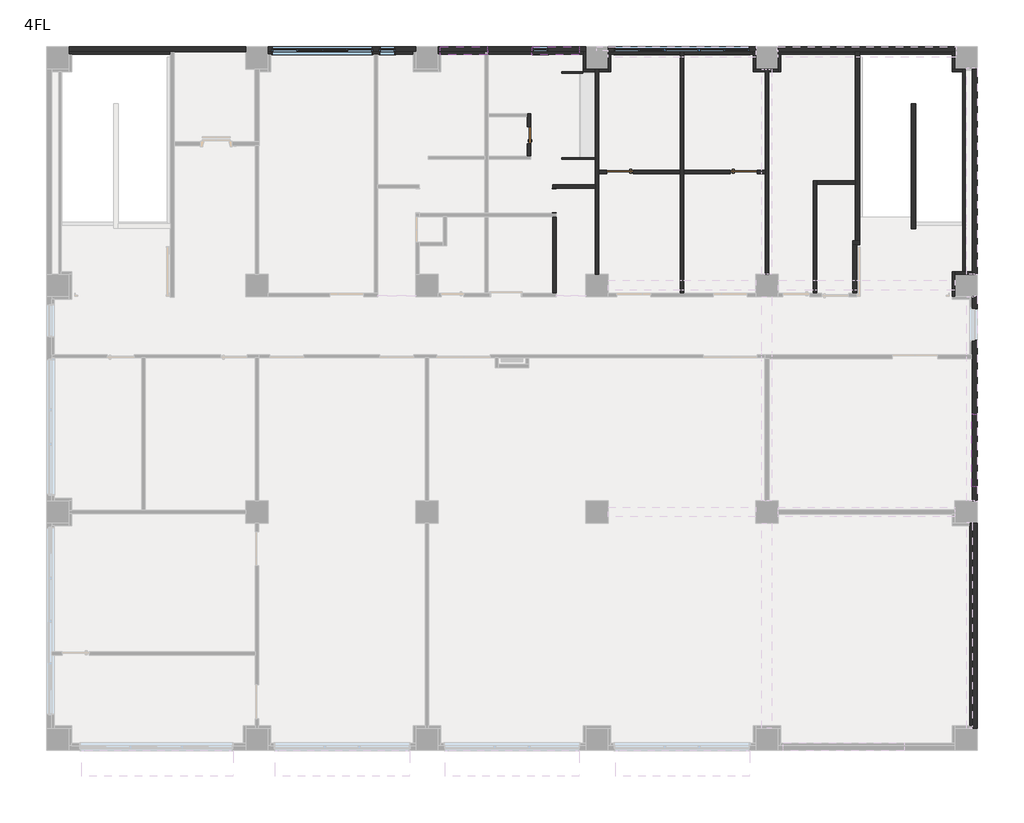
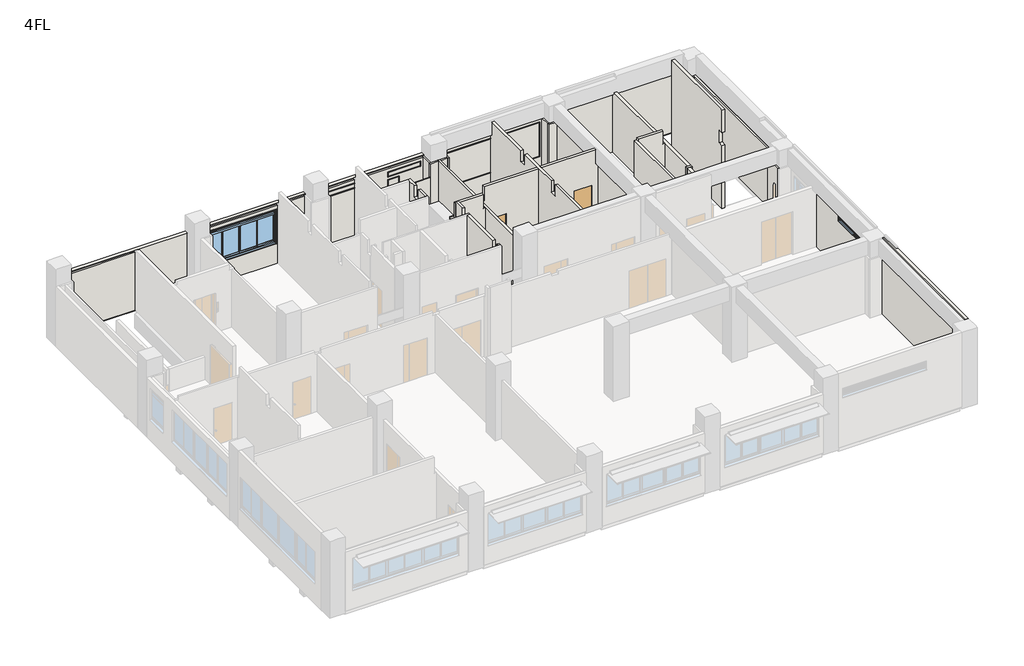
# One storey, part 3 of 5: 35 walls, 7 windows, 4 doors.
"""IFC4 building model written with IfcOpenShell, lengths in millimetres."""

from ifc_helpers import new_model, si_unit, frame, origin, place, context, project, spatial, polyline, outline, extrude, faceted_brep, transform, mapped, element, save
from components import door_14d6dc4f, door_0812e9ce, door_7e7a0efd, door_cb1f44da, ag_06_22dadb70, ag_07_7ad97628, aw4_ca96b354, aw5_d07c3508, aw7_c792b8a0, aw9_efacfa99

model = new_model("IFC4")

# Units and contexts
model_context = context("Model", 3, world=origin())
ifc_project = project(units=[si_unit("LENGTHUNIT", "METRE", prefix="MILLI")], contexts=[model_context])

# Site, building, storey
site = spatial("IfcSite", under=ifc_project)
building = spatial("IfcBuilding", under=site)
storey = spatial("IfcBuildingStorey", under=building, Name="4FL", Elevation=12300.0)

# Doors
placement = place(None, origin())
door_shape = door_14d6dc4f(model_context)
element("IfcDoor", 1, ObjectType="営_三方枠 : S1_850*2000", at=placement, inside=storey, context=model_context, shape_type="MappedRepresentation", body=[
    mapped(door_shape, transform((17500.0, 18990.25, 12300.0), x_axis=(0.0, 1.0, 0.0), y_axis=(-1.0, 0.0, 0.0), z_axis=(0.0, 0.0, 1.0))),
])
door_2_shape = door_0812e9ce(model_context)
element("IfcDoor", 2, ObjectType="営_片開き扉 : LD3 950*2000", at=placement, inside=storey, context=model_context, shape_type="MappedRepresentation", body=[
    mapped(door_2_shape, transform((19815.0, 20000.0, 12300.0), x_axis=(-1.0, 0.0, 0.0), y_axis=(0.0, -1.0, 0.0), z_axis=(0.0, 0.0, 1.0))),
])
door_3_shape = door_7e7a0efd(model_context)
element("IfcDoor", 3, ObjectType="営_片開き扉 : LD3 950*2000", at=placement, inside=storey, context=model_context, shape_type="MappedRepresentation", body=[
    mapped(door_3_shape, transform((24185.0, 20000.0, 12300.0), x_axis=(1.0, 0.0, 0.0), y_axis=(0.0, 1.0, 0.0), z_axis=(0.0, 0.0, 1.0))),
])
door_4_shape = door_cb1f44da(model_context)
element("IfcDoor", 4, ObjectType="営_片開き扉 : SD7 600*2000", at=placement, inside=storey, context=model_context, shape_type="MappedRepresentation", body=[
    mapped(door_4_shape, transform((16600.0, 21310.0, 12300.0), x_axis=(0.0, 1.0, 0.0), y_axis=(-1.0, 0.0, 0.0), z_axis=(0.0, 0.0, 1.0))),
])

# Walls
element("IfcWall", 5, ObjectType="(外壁)RC150+20", at=placement, inside=storey, context=model_context, shape_type="Brep", body=[
    faceted_brep([(7395.0, 24250.0, 12200.0), (12605.0, 24250.0, 12200.0), (12605.0, 24250.0, 15450.0), (7395.0, 24250.0, 15450.0), (7395.0, 24250.0, 15400.0), (12515.0, 24250.0, 15400.0), (12515.0, 24250.0, 12300.0), (7395.0, 24250.0, 12300.0), (12605.0, 24420.0, 12200.0), (7395.0, 24420.0, 12200.0), (7395.0, 24420.0, 15450.0), (12605.0, 24420.0, 15450.0), (11340.0, 24420.0, 13275.0), (11860.0, 24420.0, 13275.0), (11860.0, 24420.0, 15195.0), (11340.0, 24420.0, 15195.0), (7540.0, 24420.0, 13275.0), (11060.0, 24420.0, 13275.0), (11060.0, 24420.0, 15195.0), (7540.0, 24420.0, 15195.0), (11310.0, 24260.0, 13365.0), (11310.0, 24260.0, 15220.0), (11310.0, 24250.6075581, 15220.0), (11310.0, 24250.6075581, 13365.0), (11890.0, 24260.0, 15220.0), (11890.0, 24260.0, 13365.0), (11890.0, 24250.6075581, 13365.0), (11890.0, 24250.6075581, 15220.0), (11880.0, 24260.0, 13365.0), (11320.0, 24260.0, 13365.0), (11320.0, 24260.0, 15215.0), (11880.0, 24260.0, 15215.0), (11320.0, 24260.0, 13295.0), (11320.0, 24360.0, 13282.5), (11320.0, 24360.0, 15215.0), (11880.0, 24360.0, 15215.0), (11880.0, 24360.0, 13282.5), (11880.0, 24260.0, 13295.0), (11860.0, 24360.0, 13282.5), (11340.0, 24360.0, 13282.5), (11340.0, 24360.0, 15195.0), (11860.0, 24360.0, 15195.0), (11090.0, 24260.0, 15220.0), (11090.0, 24260.0, 13365.0), (11090.0, 24250.6075581, 13365.0), (11090.0, 24250.6075581, 15220.0), (7510.0, 24260.0, 13365.0), (7510.0, 24260.0, 15220.0), (7510.0, 24250.6075581, 15220.0), (7510.0, 24250.6075581, 13365.0), (11080.0, 24260.0, 13365.0), (7520.0, 24260.0, 13365.0), (7520.0, 24260.0, 15215.0), (11080.0, 24260.0, 15215.0), (11080.0, 24360.0, 15215.0), (11080.0, 24360.0, 13282.5), (11080.0, 24260.0, 13295.0), (7520.0, 24260.0, 13295.0), (7520.0, 24360.0, 13282.5), (7520.0, 24360.0, 15215.0), (11060.0, 24360.0, 13282.5), (7540.0, 24360.0, 13282.5), (7540.0, 24360.0, 15195.0), (11060.0, 24360.0, 15195.0), (7395.0, 24250.6075581, 12300.0), (7395.0, 24250.6075581, 15400.0), (12515.0, 24250.6075581, 12300.0), (12515.0, 24250.6075581, 15400.0)], [[[0, 1, 2, 3, 4, 5, 6, 7]], [[8, 9, 10, 11], [12, 13, 14, 15], [16, 17, 18, 19]], [[0, 9, 8, 1]], [[20, 21, 22, 23]], [[24, 25, 26, 27]], [[25, 28, 29, 20, 23, 26]], [[21, 20, 29, 30, 31, 28, 25, 24]], [[21, 24, 27, 22]], [[30, 29, 32, 33, 34]], [[28, 31, 35, 36, 37]], [[33, 32, 37, 36, 38, 13, 12, 39]], [[34, 33, 39, 40, 41, 38, 36, 35]], [[31, 30, 34, 35]], [[29, 28, 37, 32]], [[39, 12, 15, 40]], [[13, 38, 41, 14]], [[41, 40, 15, 14]], [[42, 43, 44, 45]], [[46, 47, 48, 49]], [[43, 50, 51, 46, 49, 44]], [[43, 42, 47, 46, 51, 52, 53, 50]], [[47, 42, 45, 48]], [[50, 53, 54, 55, 56]], [[52, 51, 57, 58, 59]], [[56, 55, 60, 17, 16, 61, 58, 57]], [[55, 54, 59, 58, 61, 62, 63, 60]], [[53, 52, 59, 54]], [[51, 50, 56, 57]], [[17, 60, 63, 18]], [[61, 16, 19, 62]], [[63, 62, 19, 18]], [[9, 0, 7, 64, 65, 4, 3, 10]], [[1, 8, 11, 2]], [[3, 2, 11, 10]], [[64, 66, 67, 65], [23, 22, 27, 26], [45, 44, 49, 48]], [[66, 64, 7, 6]], [[65, 67, 5, 4]], [[67, 66, 6, 5]]]),
    faceted_brep([(13395.0, 24250.0, 12200.0), (18605.0, 24250.0, 12200.0), (18605.0, 24250.0, 15450.0), (13395.0, 24250.0, 15450.0), (16710.0, 24250.0, 13365.0), (16710.0, 24250.0, 14820.0), (17290.0, 24250.0, 14820.0), (17290.0, 24250.0, 13365.0), (18380.0, 24250.0, 15235.0), (18380.0, 24250.0, 14965.0), (16700.0, 24250.0, 14965.0), (16700.0, 24250.0, 15235.0), (15140.0, 24250.0, 15235.0), (15140.0, 24250.0, 14965.0), (13460.0, 24250.0, 14965.0), (13460.0, 24250.0, 15235.0), (18605.0, 24420.0, 12200.0), (13395.0, 24420.0, 12200.0), (13395.0, 24420.0, 15450.0), (18605.0, 24420.0, 15450.0), (16740.0, 24420.0, 13275.0), (17260.0, 24420.0, 13275.0), (17260.0, 24420.0, 14795.0), (16740.0, 24420.0, 14795.0), (16730.0, 24420.0, 14875.0), (18350.0, 24420.0, 14875.0), (18350.0, 24420.0, 15210.0), (16730.0, 24420.0, 15210.0), (13490.0, 24420.0, 14875.0), (15110.0, 24420.0, 14875.0), (15110.0, 24420.0, 15210.0), (13490.0, 24420.0, 15210.0), (16710.0, 24260.0, 14820.0), (16710.0, 24260.0, 13365.0), (17290.0, 24260.0, 13365.0), (17290.0, 24260.0, 14820.0), (17280.0, 24260.0, 13365.0), (16720.0, 24260.0, 13365.0), (16720.0, 24260.0, 14815.0), (17280.0, 24260.0, 14815.0), (16720.0, 24260.0, 13295.0), (16720.0, 24360.0, 13282.5), (16720.0, 24360.0, 14815.0), (17280.0, 24360.0, 14815.0), (17280.0, 24360.0, 13282.5), (17280.0, 24260.0, 13295.0), (17260.0, 24360.0, 13282.5), (16740.0, 24360.0, 13282.5), (16740.0, 24360.0, 14795.0), (17260.0, 24360.0, 14795.0), (18380.0, 24290.0, 15235.0), (18380.0, 24290.0, 14965.0), (16700.0, 24290.0, 14965.0), (16700.0, 24290.0, 15235.0), (18370.0, 24290.0, 14965.0), (16710.0, 24290.0, 14965.0), (16710.0, 24290.0, 15230.0), (18370.0, 24290.0, 15230.0), (18370.0, 24360.0, 15230.0), (18370.0, 24360.0, 14884.2307692), (18370.0, 24290.0, 14895.0), (16710.0, 24290.0, 14895.0), (16710.0, 24360.0, 14884.2307692), (16710.0, 24360.0, 15230.0), (18350.0, 24360.0, 14884.2307692), (16730.0, 24360.0, 14884.2307692), (16730.0, 24360.0, 15210.0), (18350.0, 24360.0, 15210.0), (15140.0, 24290.0, 15235.0), (15140.0, 24290.0, 14965.0), (13460.0, 24290.0, 14965.0), (13460.0, 24290.0, 15235.0), (15130.0, 24290.0, 14965.0), (13470.0, 24290.0, 14965.0), (13470.0, 24290.0, 15230.0), (15130.0, 24290.0, 15230.0), (15130.0, 24360.0, 15230.0), (15130.0, 24360.0, 14884.2307692), (15130.0, 24290.0, 14895.0), (13470.0, 24290.0, 14895.0), (13470.0, 24360.0, 14884.2307692), (13470.0, 24360.0, 15230.0), (15110.0, 24360.0, 14884.2307692), (13490.0, 24360.0, 14884.2307692), (13490.0, 24360.0, 15210.0), (15110.0, 24360.0, 15210.0)], [[[0, 1, 2, 3], [4, 5, 6, 7], [8, 9, 10, 11], [12, 13, 14, 15]], [[16, 17, 18, 19], [20, 21, 22, 23], [24, 25, 26, 27], [28, 29, 30, 31]], [[0, 17, 16, 1]], [[32, 5, 4, 33]], [[34, 7, 6, 35]], [[33, 4, 7, 34, 36, 37]], [[32, 33, 37, 38, 39, 36, 34, 35]], [[5, 32, 35, 6]], [[38, 37, 40, 41, 42]], [[36, 39, 43, 44, 45]], [[41, 40, 45, 44, 46, 21, 20, 47]], [[42, 41, 47, 48, 49, 46, 44, 43]], [[39, 38, 42, 43]], [[37, 36, 45, 40]], [[47, 20, 23, 48]], [[21, 46, 49, 22]], [[49, 48, 23, 22]], [[50, 51, 9, 8]], [[52, 53, 11, 10]], [[51, 54, 55, 52, 10, 9]], [[51, 50, 53, 52, 55, 56, 57, 54]], [[53, 50, 8, 11]], [[54, 57, 58, 59, 60]], [[56, 55, 61, 62, 63]], [[60, 59, 64, 25, 24, 65, 62, 61]], [[59, 58, 63, 62, 65, 66, 67, 64]], [[57, 56, 63, 58]], [[55, 54, 60, 61]], [[25, 64, 67, 26]], [[65, 24, 27, 66]], [[67, 66, 27, 26]], [[68, 69, 13, 12]], [[70, 71, 15, 14]], [[13, 69, 72, 73, 70, 14]], [[69, 68, 71, 70, 73, 74, 75, 72]], [[68, 12, 15, 71]], [[72, 75, 76, 77, 78]], [[74, 73, 79, 80, 81]], [[78, 77, 82, 29, 28, 83, 80, 79]], [[77, 76, 81, 80, 83, 84, 85, 82]], [[75, 74, 81, 76]], [[73, 72, 78, 79]], [[29, 82, 85, 30]], [[83, 28, 31, 84]], [[85, 84, 31, 30]], [[17, 0, 3, 18]], [[1, 16, 19, 2]], [[3, 2, 19, 18]]]),
    faceted_brep([(19395.0, 24250.0, 12200.0), (24605.0, 24250.0, 12200.0), (24605.0, 24250.0, 15450.0), (19395.0, 24250.0, 15450.0), (24410.0, 24250.0, 15220.0), (24410.0, 24250.0, 13365.0), (19590.0, 24250.0, 13365.0), (19590.0, 24250.0, 15220.0), (24605.0, 24420.0, 12200.0), (19395.0, 24420.0, 12200.0), (19395.0, 24420.0, 15450.0), (24605.0, 24420.0, 15450.0), (19620.0, 24420.0, 13275.0), (24380.0, 24420.0, 13275.0), (24380.0, 24420.0, 15195.0), (19620.0, 24420.0, 15195.0), (24410.0, 24260.0, 15220.0), (24410.0, 24260.0, 13365.0), (19590.0, 24260.0, 13365.0), (19590.0, 24260.0, 15220.0), (24400.0, 24260.0, 13365.0), (19600.0, 24260.0, 13365.0), (19600.0, 24260.0, 15215.0), (24400.0, 24260.0, 15215.0), (24400.0, 24360.0, 15215.0), (24400.0, 24360.0, 13282.5), (24400.0, 24260.0, 13295.0), (19600.0, 24260.0, 13295.0), (19600.0, 24360.0, 13282.5), (19600.0, 24360.0, 15215.0), (24380.0, 24360.0, 13282.5), (19620.0, 24360.0, 13282.5), (19620.0, 24360.0, 15195.0), (24380.0, 24360.0, 15195.0)], [[[0, 1, 2, 3], [4, 5, 6, 7]], [[8, 9, 10, 11], [12, 13, 14, 15]], [[0, 9, 8, 1]], [[16, 17, 5, 4]], [[18, 19, 7, 6]], [[5, 17, 20, 21, 18, 6]], [[17, 16, 19, 18, 21, 22, 23, 20]], [[16, 4, 7, 19]], [[20, 23, 24, 25, 26]], [[22, 21, 27, 28, 29]], [[26, 25, 30, 13, 12, 31, 28, 27]], [[25, 24, 29, 28, 31, 32, 33, 30]], [[23, 22, 29, 24]], [[21, 20, 26, 27]], [[13, 30, 33, 14]], [[31, 12, 15, 32]], [[33, 32, 15, 14]], [[9, 0, 3, 10]], [[1, 8, 11, 2]], [[3, 2, 11, 10]]]),
    faceted_brep([(25395.0, 24250.0, 12200.0), (31630.0, 24250.0, 12200.0), (31630.0, 24250.0, 15450.0), (25395.0, 24250.0, 15450.0), (31630.0, 24420.0, 12200.0), (31580.0, 24420.0, 12200.0), (25420.0, 24420.0, 12200.0), (25395.0, 24420.0, 12200.0), (25395.0, 24420.0, 15450.0), (31630.0, 24420.0, 15450.0)], [[[0, 1, 2, 3]], [[4, 5, 6, 7, 8, 9]], [[0, 7, 6, 5, 4, 1]], [[7, 0, 3, 8]], [[1, 4, 9, 2]], [[3, 2, 9, 8]]]),
    faceted_brep([(370.0, 24250.0, 12200.0), (6605.0, 24250.0, 12200.0), (6605.0, 24250.0, 15450.0), (370.0, 24250.0, 15450.0), (6605.0, 24420.0, 12200.0), (370.0, 24420.0, 12200.0), (370.0, 24420.0, 15450.0), (6605.0, 24420.0, 15450.0)], [[[0, 1, 2, 3]], [[4, 5, 6, 7]], [[4, 1, 0, 5]], [[1, 4, 7, 2]], [[5, 0, 3, 6]], [[3, 2, 7, 6]]]),
])
element("IfcWall", 6, ObjectType="(外壁)RC150+20", at=placement, inside=storey, context=model_context, shape_type="Brep", body=[
    faceted_brep([(32250.0, 15605.0, 12200.0), (32250.0, 8395.0, 12200.0), (32250.0, 8395.0, 15400.0), (32250.0, 15605.0, 15400.0), (32250.0, 14027.5, 15020.0), (32250.0, 14027.5, 13365.0), (32250.0, 15207.5, 13365.0), (32250.0, 15207.5, 15020.0), (32250.0, 8890.0, 15385.0), (32250.0, 8890.0, 14865.0), (32250.0, 11470.0, 14865.0), (32250.0, 11470.0, 15385.0), (32420.0, 15605.0, 15400.0), (32420.0, 8395.0, 15400.0), (32420.0, 8395.0, 12200.0), (32420.0, 8420.0, 12200.0), (32420.0, 15580.0, 12200.0), (32420.0, 15605.0, 12200.0), (32420.0, 15177.5, 13275.0), (32420.0, 14057.5, 13275.0), (32420.0, 14057.5, 14995.0), (32420.0, 15177.5, 14995.0), (32420.0, 11440.0, 14775.0), (32420.0, 8920.0, 14775.0), (32420.0, 8920.0, 15360.0), (32420.0, 11440.0, 15360.0), (32260.0, 14027.5, 15020.0), (32260.0, 14027.5, 13365.0), (32260.0, 15207.5, 13365.0), (32260.0, 15207.5, 15020.0), (32260.0, 14037.5, 13365.0), (32260.0, 15197.5, 13365.0), (32260.0, 15197.5, 15015.0), (32260.0, 14037.5, 15015.0), (32360.0, 14037.5, 15015.0), (32360.0, 14037.5, 13282.5), (32260.0, 14037.5, 13295.0), (32260.0, 15197.5, 13295.0), (32360.0, 15197.5, 13282.5), (32360.0, 15197.5, 15015.0), (32360.0, 14057.5, 13282.5), (32360.0, 15177.5, 13282.5), (32360.0, 15177.5, 14995.0), (32360.0, 14057.5, 14995.0), (32290.0, 8890.0, 15385.0), (32290.0, 8890.0, 14865.0), (32290.0, 11470.0, 14865.0), (32290.0, 11470.0, 15385.0), (32290.0, 8900.0, 14865.0), (32290.0, 11460.0, 14865.0), (32290.0, 11460.0, 15380.0), (32290.0, 8900.0, 15380.0), (32360.0, 8900.0, 15380.0), (32360.0, 8900.0, 14784.2307692), (32290.0, 8900.0, 14795.0), (32290.0, 11460.0, 14795.0), (32360.0, 11460.0, 14784.2307692), (32360.0, 11460.0, 15380.0), (32360.0, 8920.0, 14784.2307692), (32360.0, 11440.0, 14784.2307692), (32360.0, 11440.0, 15360.0), (32360.0, 8920.0, 15360.0)], [[[0, 1, 2, 3], [4, 5, 6, 7], [8, 9, 10, 11]], [[12, 13, 14, 15, 16, 17], [18, 19, 20, 21], [22, 23, 24, 25]], [[14, 1, 0, 17, 16, 15]], [[26, 27, 5, 4]], [[28, 29, 7, 6]], [[5, 27, 30, 31, 28, 6]], [[27, 26, 29, 28, 31, 32, 33, 30]], [[26, 4, 7, 29]], [[30, 33, 34, 35, 36]], [[32, 31, 37, 38, 39]], [[36, 35, 40, 19, 18, 41, 38, 37]], [[35, 34, 39, 38, 41, 42, 43, 40]], [[33, 32, 39, 34]], [[31, 30, 36, 37]], [[19, 40, 43, 20]], [[41, 18, 21, 42]], [[43, 42, 21, 20]], [[1, 14, 13, 2]], [[17, 0, 3, 12]], [[3, 2, 13, 12]], [[44, 45, 9, 8]], [[46, 47, 11, 10]], [[9, 45, 48, 49, 46, 10]], [[45, 44, 47, 46, 49, 50, 51, 48]], [[44, 8, 11, 47]], [[48, 51, 52, 53, 54]], [[50, 49, 55, 56, 57]], [[54, 53, 58, 23, 22, 59, 56, 55]], [[53, 52, 57, 56, 59, 60, 61, 58]], [[51, 50, 57, 52]], [[49, 48, 54, 55]], [[23, 58, 61, 24]], [[59, 22, 25, 60]], [[61, 60, 25, 24]]]),
    faceted_brep([(32250.0, 23630.0, 12200.0), (32250.0, 16395.0, 12200.0), (32250.0, 16395.0, 15400.0), (32250.0, 23630.0, 15400.0), (32420.0, 16395.0, 12200.0), (32420.0, 16420.0, 12200.0), (32420.0, 23580.0, 12200.0), (32420.0, 23630.0, 12200.0), (32420.0, 23630.0, 15400.0), (32420.0, 16395.0, 15400.0)], [[[0, 1, 2, 3]], [[4, 5, 6, 7, 8, 9]], [[4, 1, 0, 7, 6, 5]], [[1, 4, 9, 2]], [[7, 0, 3, 8]], [[3, 2, 9, 8]]]),
    faceted_brep([(32250.0, 370.0, 12200.0), (32250.0, 370.0, 15400.0), (32250.0, 370.0, 16240.0), (32250.0, 370.0, 16300.0), (32250.0, 7605.0, 16300.0), (32250.0, 7605.0, 16240.0), (32250.0, 7605.0, 12200.0), (32420.0, 7605.0, 12200.0), (32420.0, 7605.0, 16300.0), (32420.0, 6580.0, 16300.0), (32420.0, 370.0, 16300.0), (32420.0, 370.0, 12200.0), (32420.0, 420.0, 12200.0), (32420.0, 7580.0, 12200.0)], [[[0, 1, 2, 3, 4, 5, 6]], [[7, 8, 9, 10, 11, 12, 13]], [[11, 0, 6, 7, 13, 12]], [[3, 10, 9, 8, 4]], [[3, 2, 1, 0, 11, 10]], [[6, 5, 4, 8, 7]]]),
])
element("IfcWall", 7, ObjectType="(内壁)W4", at=placement, inside=storey, context=model_context, shape_type="Brep", body=[
    faceted_brep([(18940.0, 23630.0, 12300.0), (18940.0, 23540.0, 12300.0), (18940.0, 19550.0, 12300.0), (18940.0, 19430.0, 12300.0), (18940.0, 16395.0, 12300.0), (18940.0, 16395.0, 15400.0), (18940.0, 19430.0, 15400.0), (18940.0, 19550.0, 15400.0), (18940.0, 23540.0, 15400.0), (18940.0, 23630.0, 15400.0), (19060.0, 16395.0, 12300.0), (19060.0, 19940.0, 12300.0), (19060.0, 20060.0, 12300.0), (19060.0, 23540.0, 12300.0), (19060.0, 23630.0, 12300.0), (19060.0, 23630.0, 15400.0), (19060.0, 23540.0, 15400.0), (19060.0, 20060.0, 15400.0), (19060.0, 19940.0, 15400.0), (19060.0, 16395.0, 15400.0)], [[[0, 1, 2, 3, 4, 5, 6, 7, 8, 9]], [[10, 11, 12, 13, 14, 15, 16, 17, 18, 19]], [[10, 4, 3, 2, 1, 0, 14, 13, 12, 11]], [[4, 10, 19, 5]], [[14, 0, 9, 15]], [[9, 8, 7, 6, 5, 19, 18, 17, 16, 15]]]),
])
element("IfcWall", 8, ObjectType="(内壁)W3", at=placement, inside=storey, context=model_context, shape_type="Brep", body=[
    faceted_brep([(26640.0, 19695.0, 12300.0), (26640.0, 15725.0, 12300.0), (26640.0, 15725.0, 16150.0), (26640.0, 15825.0, 16150.0), (26640.0, 15825.0, 15450.0), (26640.0, 16175.0, 15450.0), (26640.0, 16175.0, 16150.0), (26640.0, 19695.0, 16150.0), (26760.0, 15725.0, 12300.0), (26760.0, 19575.0, 12300.0), (26760.0, 19695.0, 12300.0), (26760.0, 19695.0, 16150.0), (26760.0, 16175.0, 16150.0), (26760.0, 16175.0, 15450.0), (26760.0, 15825.0, 15450.0), (26760.0, 15825.0, 16150.0), (26760.0, 15725.0, 16150.0)], [[[0, 1, 2, 3, 4, 5, 6, 7]], [[8, 9, 10, 11, 12, 13, 14, 15, 16]], [[1, 0, 10, 9, 8]], [[11, 7, 6, 12]], [[2, 16, 15, 3]], [[0, 7, 11, 10]], [[2, 1, 8, 16]], [[14, 4, 3, 15]], [[4, 14, 13, 5]], [[5, 13, 12, 6]]]),
])
element("IfcWall", 9, ObjectType="(内壁)W3", at=placement, inside=storey, context=model_context, shape_type="Brep", body=[
    faceted_brep([(26760.0, 19575.0, 12300.0), (28125.0, 19575.0, 12300.0), (28125.0, 19575.0, 15550.0), (28024.0, 19575.0, 15550.0), (28024.0, 19575.0, 16250.0), (26760.0, 19575.0, 16250.0), (28125.0, 19695.0, 12300.0), (26760.0, 19695.0, 12300.0), (26760.0, 19695.0, 16150.0), (26760.0, 19695.0, 16250.0), (28024.0, 19695.0, 16250.0), (28024.0, 19695.0, 15550.0), (28125.0, 19695.0, 15550.0)], [[[0, 1, 2, 3, 4, 5]], [[6, 7, 8, 9, 10, 11, 12]], [[1, 0, 7, 6]], [[9, 5, 4, 10]], [[0, 5, 9, 8, 7]], [[1, 6, 12, 2]], [[11, 3, 2, 12]], [[3, 11, 10, 4]]]),
])
element("IfcWall", 10, ObjectType="(内壁)150_RC", at=placement, inside=storey, context=model_context, shape_type="Brep", body=[
    faceted_brep([(28175.0, 15725.0, 12300.0), (28175.0, 17430.0, 12300.0), (28175.0, 17430.0, 15550.0), (28175.0, 16175.0, 15550.0), (28175.0, 16175.0, 15450.0), (28175.0, 15825.0, 15450.0), (28175.0, 15825.0, 15550.0), (28175.0, 15825.0, 16150.0), (28175.0, 15725.0, 16150.0), (28025.0, 17430.0, 12300.0), (28025.0, 15725.0, 12300.0), (28025.0, 15725.0, 16150.0), (28025.0, 15825.0, 16150.0), (28025.0, 15825.0, 15550.0), (28025.0, 15825.0, 15450.0), (28025.0, 16175.0, 15450.0), (28025.0, 16175.0, 15550.0), (28025.0, 17430.0, 15550.0)], [[[0, 1, 2, 3, 4, 5, 6, 7, 8]], [[9, 10, 11, 12, 13, 14, 15, 16, 17]], [[1, 0, 10, 9]], [[11, 8, 7, 12]], [[1, 9, 17, 2]], [[0, 8, 11, 10]], [[5, 14, 13, 12, 7, 6]], [[14, 5, 4, 15]], [[15, 4, 3, 16]], [[3, 2, 17, 16]]]),
])
element("IfcWall", 11, ObjectType="(内壁)150_RC", at=placement, inside=storey, context=model_context, shape_type="Brep", body=[
    faceted_brep([(28025.0, 17430.0, 12300.0), (28175.0, 17430.0, 12300.0), (28275.0, 17430.0, 12300.0), (28275.0, 17430.0, 15550.0), (28175.0, 17430.0, 15550.0), (28025.0, 17430.0, 15550.0), (28275.0, 17580.0, 12300.0), (28125.0, 17580.0, 12300.0), (28025.0, 17580.0, 12300.0), (28025.0, 17580.0, 15550.0), (28125.0, 17580.0, 15550.0), (28275.0, 17580.0, 15550.0)], [[[0, 1, 2, 3, 4, 5]], [[6, 7, 8, 9, 10, 11]], [[2, 1, 0, 8, 7, 6]], [[8, 0, 5, 9]], [[2, 6, 11, 3]], [[5, 4, 3, 11, 10, 9]]]),
])
element("IfcWall", 12, ObjectType="(内壁)150_RC", at=placement, inside=storey, context=model_context, shape_type="Brep", body=[
    faceted_brep([(28275.0, 17580.0, 12300.0), (28275.0, 24250.0, 12300.0), (28275.0, 24250.0, 15550.0), (28275.0, 17580.0, 15550.0), (28125.0, 24250.0, 12300.0), (28125.0, 19695.0, 12300.0), (28125.0, 19575.0, 12300.0), (28125.0, 17580.0, 12300.0), (28125.0, 17580.0, 15550.0), (28125.0, 19575.0, 15550.0), (28125.0, 19695.0, 15550.0), (28125.0, 24250.0, 15550.0)], [[[0, 1, 2, 3]], [[4, 5, 6, 7, 8, 9, 10, 11]], [[1, 0, 7, 6, 5, 4]], [[7, 0, 3, 8]], [[3, 2, 11, 10, 9, 8]], [[1, 4, 11, 2]]]),
])
element("IfcWall", 13, ObjectType="(内壁)W3", at=placement, inside=storey, context=model_context, shape_type="Brep", body=[
    faceted_brep([(25060.0, 16395.0, 12300.0), (25060.0, 23540.0, 12300.0), (25060.0, 23630.0, 12300.0), (25060.0, 23630.0, 15400.0), (25060.0, 23540.0, 15400.0), (25060.0, 16395.0, 15400.0), (24940.0, 23630.0, 12300.0), (24940.0, 23540.0, 12300.0), (24940.0, 20060.0, 12300.0), (24940.0, 19940.0, 12300.0), (24940.0, 16395.0, 12300.0), (24940.0, 16395.0, 15400.0), (24940.0, 19940.0, 15400.0), (24940.0, 20060.0, 15400.0), (24940.0, 23540.0, 15400.0), (24940.0, 23630.0, 15400.0)], [[[0, 1, 2, 3, 4, 5]], [[6, 7, 8, 9, 10, 11, 12, 13, 14, 15]], [[0, 10, 9, 8, 7, 6, 2, 1]], [[10, 0, 5, 11]], [[2, 6, 15, 3]], [[5, 4, 3, 15, 14, 13, 12, 11]]]),
])
element("IfcWall", 14, ObjectType="(内壁)W3", at=placement, inside=storey, context=model_context, shape_type="Brep", body=[
    faceted_brep([(21940.0, 24250.0, 12300.0), (21940.0, 20060.0, 12300.0), (21940.0, 19940.0, 12300.0), (21940.0, 15725.0, 12300.0), (21940.0, 15725.0, 16150.0), (21940.0, 15825.0, 16150.0), (21940.0, 15825.0, 15450.0), (21940.0, 16175.0, 15450.0), (21940.0, 16175.0, 16150.0), (21940.0, 18495.0, 16150.0), (21940.0, 18495.0, 15550.0), (21940.0, 18845.0, 15550.0), (21940.0, 18845.0, 16150.0), (21940.0, 19940.0, 16150.0), (21940.0, 20060.0, 16150.0), (21940.0, 21165.0, 16150.0), (21940.0, 21165.0, 15550.0), (21940.0, 21515.0, 15550.0), (21940.0, 21515.0, 16150.0), (21940.0, 24050.0, 16150.0), (21940.0, 24050.0, 15450.0), (21940.0, 24250.0, 15450.0), (22060.0, 15725.0, 12300.0), (22060.0, 19940.0, 12300.0), (22060.0, 20060.0, 12300.0), (22060.0, 24250.0, 12300.0), (22060.0, 24250.0, 15450.0), (22060.0, 24050.0, 15450.0), (22060.0, 24050.0, 16150.0), (22060.0, 21515.0, 16150.0), (22060.0, 21515.0, 15550.0), (22060.0, 21165.0, 15550.0), (22060.0, 21165.0, 16150.0), (22060.0, 20060.0, 16150.0), (22060.0, 19940.0, 16150.0), (22060.0, 18845.0, 16150.0), (22060.0, 18845.0, 15550.0), (22060.0, 18495.0, 15550.0), (22060.0, 18495.0, 16150.0), (22060.0, 16175.0, 16150.0), (22060.0, 16175.0, 15450.0), (22060.0, 15825.0, 15450.0), (22060.0, 15825.0, 16150.0), (22060.0, 15725.0, 16150.0)], [[[0, 1, 2, 3, 4, 5, 6, 7, 8, 9, 10, 11, 12, 13, 14, 15, 16, 17, 18, 19, 20, 21]], [[22, 23, 24, 25, 26, 27, 28, 29, 30, 31, 32, 33, 34, 35, 36, 37, 38, 39, 40, 41, 42, 43]], [[3, 2, 1, 0, 25, 24, 23, 22]], [[4, 43, 42, 5]], [[8, 39, 38, 9]], [[28, 19, 18, 29]], [[12, 35, 34, 33, 32, 15, 14, 13]], [[25, 0, 21, 26]], [[4, 3, 22, 43]], [[6, 5, 42, 41]], [[7, 6, 41, 40]], [[8, 7, 40, 39]], [[27, 20, 19, 28]], [[20, 27, 26, 21]], [[37, 10, 9, 38]], [[10, 37, 36, 11]], [[11, 36, 35, 12]], [[31, 16, 15, 32]], [[16, 31, 30, 17]], [[17, 30, 29, 18]]]),
])
element("IfcWall", 15, ObjectType="(内壁)W3", at=placement, inside=storey, context=model_context, shape_type="SweptSolid", body=[
    extrude(outline(polyline([(12300.0, 21940.0), (16150.0, 21940.0), (16150.0, 19175.0), (15400.0, 19175.0), (15400.0, 19060.0), (12300.0, 19060.0), (12300.0, 19340.0), (14300.0, 19340.0), (14300.0, 20290.0), (12300.0, 20290.0), (12300.0, 21940.0)])), frame((0.0, 19940.0, 0.0), z_axis=(0.0, 1.0, 0.0), x_axis=(0.0, 0.0, 1.0)), (0.0, 0.0, 1.0), 120.0),
    extrude(outline(polyline([(16150.0, 22060.0), (12300.0, 22060.0), (12300.0, 23710.0), (14300.0, 23710.0), (14300.0, 24660.0), (12300.0, 24660.0), (12300.0, 24940.0), (15400.0, 24940.0), (15400.0, 24825.0), (16150.0, 24825.0), (16150.0, 22060.0)])), frame((0.0, 19940.0, 0.0), z_axis=(0.0, 1.0, 0.0), x_axis=(0.0, 0.0, 1.0)), (0.0, 0.0, 1.0), 120.0),
])
element("IfcWall", 16, ObjectType="(内壁)W4", at=placement, inside=storey, context=model_context, shape_type="SweptSolid", body=[
    extrude(outline(polyline([(18430.0, 12300.0), (15725.0, 12300.0), (15725.0, 16150.0), (15825.0, 16150.0), (15825.0, 15450.0), (16175.0, 15450.0), (16175.0, 16150.0), (18430.0, 16150.0), (18430.0, 12300.0)])), frame((17440.0, 0.0, 0.0), z_axis=(1.0, 0.0, 0.0), x_axis=(0.0, 1.0, 0.0)), (0.0, 0.0, 1.0), 120.0),
])
element("IfcWall", 17, ObjectType="(内壁)W3", at=placement, inside=storey, context=model_context, shape_type="Brep", body=[
    faceted_brep([(16660.0, 20570.0, 16150.0), (16660.0, 20570.0, 12300.0), (16660.0, 21010.0, 12300.0), (16660.0, 21010.0, 14300.0), (16660.0, 21610.0, 14300.0), (16660.0, 21610.0, 12300.0), (16660.0, 22070.0, 12300.0), (16660.0, 22070.0, 16150.0), (16660.0, 21515.0, 16150.0), (16660.0, 21515.0, 15550.0), (16660.0, 21165.0, 15550.0), (16660.0, 21165.0, 16150.0), (16540.0, 20570.0, 12300.0), (16540.0, 20570.0, 16150.0), (16540.0, 21165.0, 16150.0), (16540.0, 21165.0, 15550.0), (16540.0, 21515.0, 15550.0), (16540.0, 21515.0, 16150.0), (16540.0, 21950.0, 16150.0), (16540.0, 22070.0, 16150.0), (16540.0, 22070.0, 12300.0), (16540.0, 21950.0, 12300.0), (16540.0, 21610.0, 12300.0), (16540.0, 21610.0, 14300.0), (16540.0, 21010.0, 14300.0), (16540.0, 21010.0, 12300.0)], [[[0, 1, 2, 3, 4, 5, 6, 7, 8, 9, 10, 11]], [[12, 13, 14, 15, 16, 17, 18, 19, 20, 21, 22, 23, 24, 25]], [[1, 12, 25, 2]], [[20, 6, 5, 22, 21]], [[13, 0, 11, 14]], [[7, 19, 18, 17, 8]], [[1, 0, 13, 12]], [[7, 6, 20, 19]], [[25, 24, 3, 2]], [[23, 22, 5, 4]], [[24, 23, 4, 3]], [[10, 15, 14, 11]], [[15, 10, 9, 16]], [[16, 9, 8, 17]]]),
])
element("IfcWall", 18, ObjectType="(内壁)W4", at=placement, inside=storey, context=model_context, shape_type="Brep", body=[
    faceted_brep([(17440.0, 19430.0, 12300.0), (17560.0, 19430.0, 12300.0), (18940.0, 19430.0, 12300.0), (18940.0, 19430.0, 15400.0), (18825.0, 19430.0, 15400.0), (18825.0, 19430.0, 16150.0), (17440.0, 19430.0, 16150.0), (18940.0, 19550.0, 12300.0), (17440.0, 19550.0, 12300.0), (17440.0, 19550.0, 16150.0), (18825.0, 19550.0, 16150.0), (18825.0, 19550.0, 15400.0), (18940.0, 19550.0, 15400.0)], [[[0, 1, 2, 3, 4, 5, 6]], [[7, 8, 9, 10, 11, 12]], [[2, 1, 0, 8, 7]], [[9, 6, 5, 10]], [[2, 7, 12, 3]], [[11, 4, 3, 12]], [[4, 11, 10, 5]], [[0, 6, 9, 8]]]),
])
element("IfcWall", 19, ObjectType="(内壁)120_部屋境界OFF", at=placement, inside=storey, context=model_context, shape_type="Brep", body=[
    faceted_brep([(17560.0, 18550.0, 12300.0), (17560.0, 18555.25, 12300.0), (17560.0, 18555.25, 14310.0), (17560.0, 19425.25, 14310.0), (17560.0, 19425.25, 12300.0), (17560.0, 19430.0, 12300.0), (17560.0, 19430.0, 16250.0), (17560.0, 18845.0, 16250.0), (17560.0, 18845.0, 15550.0), (17560.0, 18550.0, 15550.0), (17440.0, 18555.25, 12300.0), (17440.0, 18550.0, 12300.0), (17440.0, 18550.0, 15550.0), (17440.0, 18845.0, 15550.0), (17440.0, 18845.0, 16250.0), (17440.0, 19430.0, 16250.0), (17440.0, 19430.0, 16150.0), (17440.0, 19430.0, 12300.0), (17440.0, 19425.25, 12300.0), (17440.0, 19425.25, 14310.0), (17440.0, 18555.25, 14310.0)], [[[0, 1, 2, 3, 4, 5, 6, 7, 8, 9]], [[10, 11, 12, 13, 14, 15, 16, 17, 18, 19, 20]], [[11, 10, 1, 0]], [[5, 4, 18, 17]], [[6, 15, 14, 7]], [[11, 0, 9, 12]], [[6, 5, 17, 16, 15]], [[20, 2, 1, 10]], [[2, 20, 19, 3]], [[3, 19, 18, 4]], [[8, 13, 12, 9]], [[13, 8, 7, 14]]]),
])
element("IfcWall", 20, ObjectType="(内壁)ブース壁", at=placement, inside=storey, context=model_context, shape_type="SweptSolid", body=[
    extrude(outline(polyline([(17760.0, 20500.0), (18940.0, 20500.0), (18940.0, 20450.0), (17760.0, 20450.0), (17760.0, 20500.0)])), frame((0.0, 0.0, 12300.0), z_axis=(0.0, 0.0, 1.0), x_axis=(1.0, 0.0, 0.0)), (0.0, 0.0, 1.0), 2400.0),
])
element("IfcWall", 21, ObjectType="(内壁)ブース壁", at=placement, inside=storey, context=model_context, shape_type="SweptSolid", body=[
    extrude(outline(polyline([(17750.0, 23540.0), (18490.0, 23540.0), (18490.0, 23490.0), (17750.0, 23490.0), (17750.0, 23540.0)])), frame((0.0, 0.0, 12300.0), z_axis=(0.0, 0.0, 1.0), x_axis=(1.0, 0.0, 0.0)), (0.0, 0.0, 1.0), 2400.0),
])
element("IfcWall", 22, ObjectType="(内壁)150_RC", at=placement, inside=storey, context=model_context, shape_type="Brep", body=[
    faceted_brep([(30105.0, 22410.0, 12300.0), (30105.0, 18000.0, 12300.0), (30105.0, 18000.0, 15700.0), (30105.0, 18225.0, 15700.0), (30105.0, 18225.0, 16390.0), (30105.0, 18000.0, 16390.0), (30105.0, 18000.0, 16400.0), (30105.0, 18000.0, 17600.0), (30105.0, 18150.0, 17600.0), (30105.0, 22410.0, 17600.0), (30255.0, 18000.0, 12300.0), (30255.0, 22410.0, 12300.0), (30255.0, 22410.0, 17600.0), (30255.0, 18000.0, 17600.0), (30255.0, 18000.0, 16390.0), (30255.0, 18225.0, 16390.0), (30255.0, 18225.0, 15700.0), (30255.0, 18000.0, 15700.0)], [[[0, 1, 2, 3, 4, 5, 6, 7, 8, 9]], [[10, 11, 12, 13, 14, 15, 16, 17]], [[1, 0, 11, 10]], [[9, 8, 7, 13, 12]], [[0, 9, 12, 11]], [[1, 10, 17, 2]], [[13, 7, 6, 5, 14]], [[16, 3, 2, 17]], [[3, 16, 15, 4]], [[4, 15, 14, 5]]]),
])
element("IfcWall", 23, ObjectType="(内壁)W5", at=placement, inside=storey, context=model_context, shape_type="Brep", body=[
    faceted_brep([(31630.0, 15605.0, 12300.0), (31630.0, 16395.0, 12300.0), (31630.0, 16485.0, 12300.0), (31630.0, 16485.0, 15400.0), (31630.0, 16395.0, 15400.0), (31630.0, 15605.0, 15400.0), (31540.0, 15605.0, 12300.0), (31540.0, 15605.0, 15400.0), (31540.0, 16485.0, 15400.0), (31540.0, 16485.0, 12300.0)], [[[0, 1, 2, 3, 4, 5]], [[6, 7, 8, 9]], [[2, 1, 0, 6, 9]], [[5, 4, 3, 8, 7]], [[0, 5, 7, 6]], [[3, 2, 9, 8]]]),
])
element("IfcWall", 24, ObjectType="(内壁)W5", at=placement, inside=storey, context=model_context, shape_type="Brep", body=[
    faceted_brep([(31630.0, 16395.0, 12300.0), (32250.0, 16395.0, 12300.0), (32250.0, 16395.0, 15400.0), (31630.0, 16395.0, 15400.0), (31630.0, 16485.0, 12300.0), (31630.0, 16485.0, 15400.0), (31919.7329181, 16485.0, 15400.0), (32009.7329181, 16485.0, 15400.0), (32250.0, 16485.0, 15400.0), (32250.0, 16485.0, 12300.0), (32009.7329181, 16485.0, 12300.0), (31919.7329181, 16485.0, 12300.0)], [[[0, 1, 2, 3]], [[4, 5, 6, 7, 8, 9, 10, 11]], [[1, 0, 4, 11, 10, 9]], [[3, 2, 8, 7, 6, 5]], [[0, 3, 5, 4]], [[2, 1, 9, 8]]]),
])
element("IfcWall", 25, ObjectType="(内壁)W5", at=placement, inside=storey, context=model_context, shape_type="Brep", body=[
    faceted_brep([(32009.7329181, 16485.0, 12300.0), (32009.7329181, 23630.0, 12300.0), (32009.7329181, 23630.0, 15400.0), (32009.7329181, 16485.0, 15400.0), (31919.7329181, 16485.0, 12300.0), (31919.7329181, 16485.0, 15400.0), (31919.7329181, 23540.0, 15400.0), (31919.7329181, 23630.0, 15400.0), (31919.7329181, 23630.0, 12300.0), (31919.7329181, 23540.0, 12300.0)], [[[0, 1, 2, 3]], [[4, 5, 6, 7, 8, 9]], [[1, 0, 4, 9, 8]], [[3, 2, 7, 6, 5]], [[0, 3, 5, 4]], [[2, 1, 8, 7]]]),
])
element("IfcWall", 26, ObjectType="(内壁)W5", at=placement, inside=storey, context=model_context, shape_type="Brep", body=[
    faceted_brep([(31919.7329181, 23630.0, 12300.0), (31630.0, 23630.0, 12300.0), (31540.0, 23630.0, 12300.0), (31540.0, 23630.0, 15400.0), (31630.0, 23630.0, 15400.0), (31919.7329181, 23630.0, 15400.0), (31919.7329181, 23540.0, 12300.0), (31919.7329181, 23540.0, 15400.0), (31540.0, 23540.0, 15400.0), (31540.0, 23540.0, 12300.0)], [[[0, 1, 2, 3, 4, 5]], [[6, 7, 8, 9]], [[2, 1, 0, 6, 9]], [[5, 4, 3, 8, 7]], [[0, 5, 7, 6]], [[3, 2, 9, 8]]]),
])
element("IfcWall", 27, ObjectType="(内壁)W5", at=placement, inside=storey, context=model_context, shape_type="Brep", body=[
    faceted_brep([(31630.0, 23630.0, 12300.0), (31630.0, 24250.0, 12300.0), (31630.0, 24250.0, 15400.0), (31630.0, 23630.0, 15400.0), (31540.0, 23630.0, 12300.0), (31540.0, 23630.0, 15400.0), (31540.0, 24250.0, 15400.0), (31540.0, 24250.0, 12300.0), (31540.0, 24160.0, 12300.0)], [[[0, 1, 2, 3]], [[4, 5, 6, 7, 8]], [[1, 0, 4, 8, 7]], [[3, 2, 6, 5]], [[0, 3, 5, 4]], [[2, 1, 7, 6]]]),
])
element("IfcWall", 28, ObjectType="(内壁)W5", at=placement, inside=storey, context=model_context, shape_type="Brep", body=[
    faceted_brep([(31540.0, 24250.0, 12300.0), (25395.0, 24250.0, 12300.0), (25395.0, 24250.0, 15450.0), (31540.0, 24250.0, 15450.0), (31540.0, 24250.0, 15400.0), (31540.0, 24160.0, 12300.0), (31540.0, 24160.0, 15450.0), (25395.0, 24160.0, 15450.0), (25395.0, 24160.0, 15400.0), (25395.0, 24160.0, 12300.0), (25485.0, 24160.0, 12300.0)], [[[0, 1, 2, 3, 4]], [[5, 6, 7, 8, 9, 10]], [[1, 0, 5, 10, 9]], [[3, 2, 7, 6]], [[0, 4, 3, 6, 5]], [[2, 1, 9, 8, 7]]]),
])
element("IfcWall", 29, ObjectType="(内壁)W5", at=placement, inside=storey, context=model_context, shape_type="Brep", body=[
    faceted_brep([(25395.0, 24160.0, 12300.0), (25395.0, 23630.0, 12300.0), (25395.0, 23540.0, 12300.0), (25395.0, 23540.0, 15400.0), (25395.0, 23630.0, 15400.0), (25395.0, 24160.0, 15400.0), (25485.0, 24160.0, 12300.0), (25485.0, 24160.0, 15400.0), (25485.0, 23540.0, 15400.0), (25485.0, 23540.0, 12300.0)], [[[0, 1, 2, 3, 4, 5]], [[6, 7, 8, 9]], [[2, 1, 0, 6, 9]], [[5, 4, 3, 8, 7]], [[0, 5, 7, 6]], [[3, 2, 9, 8]]]),
])
element("IfcWall", 30, ObjectType="(内壁)W5", at=placement, inside=storey, context=model_context, shape_type="Brep", body=[
    faceted_brep([(25395.0, 23630.0, 15400.0), (25395.0, 23630.0, 12300.0), (25060.0, 23630.0, 12300.0), (25060.0, 23630.0, 15400.0), (25395.0, 23540.0, 12300.0), (25395.0, 23540.0, 15400.0), (25060.0, 23540.0, 15400.0), (25060.0, 23540.0, 12300.0)], [[[0, 1, 2, 3]], [[4, 5, 6, 7]], [[1, 4, 7, 2]], [[5, 0, 3, 6]], [[1, 0, 5, 4]], [[3, 2, 7, 6]]]),
    faceted_brep([(24515.0, 23630.0, 12300.0), (24515.0, 23630.0, 15400.0), (24605.0, 23630.0, 15400.0), (24940.0, 23630.0, 15400.0), (24940.0, 23630.0, 12300.0), (24605.0, 23630.0, 12300.0), (24515.0, 23540.0, 15400.0), (24515.0, 23540.0, 12300.0), (24940.0, 23540.0, 12300.0), (24940.0, 23540.0, 15400.0)], [[[0, 1, 2, 3, 4, 5]], [[6, 7, 8, 9]], [[7, 0, 5, 4, 8]], [[1, 6, 9, 3, 2]], [[1, 0, 7, 6]], [[4, 3, 9, 8]]]),
])
element("IfcWall", 31, ObjectType="(内壁)W5", at=placement, inside=storey, context=model_context, shape_type="Brep", body=[
    faceted_brep([(24605.0, 23630.0, 12300.0), (24605.0, 24250.0, 12300.0), (24605.0, 24250.0, 15400.0), (24605.0, 23630.0, 15400.0), (24515.0, 23630.0, 12300.0), (24515.0, 23630.0, 15400.0), (24515.0, 24160.0, 15400.0), (24515.0, 24250.0, 15400.0), (24515.0, 24250.0, 12300.0), (24515.0, 24160.0, 12300.0)], [[[0, 1, 2, 3]], [[4, 5, 6, 7, 8, 9]], [[1, 0, 4, 9, 8]], [[3, 2, 7, 6, 5]], [[0, 3, 5, 4]], [[2, 1, 8, 7]]]),
])
element("IfcWall", 32, ObjectType="(内壁)W5", at=placement, inside=storey, context=model_context, shape_type="Brep", body=[
    faceted_brep([(24515.0, 24250.0, 12300.0), (19395.0, 24250.0, 12300.0), (19395.0, 24250.0, 15400.0), (24515.0, 24250.0, 15400.0), (19395.0, 24160.0, 12300.0), (19485.0, 24160.0, 12300.0), (24515.0, 24160.0, 12300.0), (24515.0, 24160.0, 15400.0), (19485.0, 24160.0, 15400.0), (19395.0, 24160.0, 15400.0)], [[[0, 1, 2, 3]], [[4, 5, 6, 7, 8, 9]], [[1, 0, 6, 5, 4]], [[3, 2, 9, 8, 7]], [[0, 3, 7, 6]], [[2, 1, 4, 9]]]),
])
element("IfcWall", 33, ObjectType="(内壁)W5", at=placement, inside=storey, context=model_context, shape_type="Brep", body=[
    faceted_brep([(19395.0, 24160.0, 12300.0), (19395.0, 23630.0, 12300.0), (19395.0, 23540.0, 12300.0), (19395.0, 23540.0, 15400.0), (19395.0, 23630.0, 15400.0), (19395.0, 24160.0, 15400.0), (19485.0, 24160.0, 12300.0), (19485.0, 24160.0, 15400.0), (19485.0, 23540.0, 15400.0), (19485.0, 23540.0, 12300.0)], [[[0, 1, 2, 3, 4, 5]], [[6, 7, 8, 9]], [[2, 1, 0, 6, 9]], [[5, 4, 3, 8, 7]], [[0, 5, 7, 6]], [[3, 2, 9, 8]]]),
])
element("IfcWall", 34, ObjectType="(内壁)W5", at=placement, inside=storey, context=model_context, shape_type="Brep", body=[
    faceted_brep([(19395.0, 23630.0, 15400.0), (19395.0, 23630.0, 12300.0), (19060.0, 23630.0, 12300.0), (19060.0, 23630.0, 15400.0), (19395.0, 23540.0, 12300.0), (19395.0, 23540.0, 15400.0), (19060.0, 23540.0, 15400.0), (19060.0, 23540.0, 12300.0)], [[[0, 1, 2, 3]], [[4, 5, 6, 7]], [[1, 4, 7, 2]], [[5, 0, 3, 6]], [[1, 0, 5, 4]], [[3, 2, 7, 6]]]),
    faceted_brep([(18515.0, 23630.0, 12300.0), (18515.0, 23630.0, 15400.0), (18605.0, 23630.0, 15400.0), (18940.0, 23630.0, 15400.0), (18940.0, 23630.0, 12300.0), (18605.0, 23630.0, 12300.0), (18515.0, 23540.0, 15400.0), (18515.0, 23540.0, 12300.0), (18940.0, 23540.0, 12300.0), (18940.0, 23540.0, 15400.0)], [[[0, 1, 2, 3, 4, 5]], [[6, 7, 8, 9]], [[7, 0, 5, 4, 8]], [[1, 6, 9, 3, 2]], [[1, 0, 7, 6]], [[4, 3, 9, 8]]]),
])
element("IfcWall", 35, ObjectType="(内壁)W5", at=placement, inside=storey, context=model_context, shape_type="Brep", body=[
    faceted_brep([(18605.0, 23630.0, 12300.0), (18605.0, 24250.0, 12300.0), (18605.0, 24250.0, 15400.0), (18605.0, 23630.0, 15400.0), (18515.0, 23630.0, 12300.0), (18515.0, 23630.0, 15400.0), (18515.0, 24160.0, 15400.0), (18515.0, 24250.0, 15400.0), (18515.0, 24250.0, 12300.0), (18515.0, 24160.0, 12300.0)], [[[0, 1, 2, 3]], [[4, 5, 6, 7, 8, 9]], [[1, 0, 4, 9, 8]], [[3, 2, 7, 6, 5]], [[0, 3, 5, 4]], [[2, 1, 8, 7]]]),
])
element("IfcWall", 36, ObjectType="(内壁)W5", at=placement, inside=storey, context=model_context, shape_type="Brep", body=[
    faceted_brep([(18515.0, 24250.0, 15400.0), (18515.0, 24250.0, 12300.0), (15160.0, 24250.0, 12300.0), (15160.0, 24250.0, 15400.0), (18515.0, 24160.0, 12300.0), (18515.0, 24160.0, 15400.0), (15160.0, 24160.0, 15400.0), (15160.0, 24160.0, 12300.0)], [[[0, 1, 2, 3]], [[4, 5, 6, 7]], [[1, 4, 7, 2]], [[5, 0, 3, 6]], [[1, 0, 5, 4]], [[3, 2, 7, 6]]]),
    faceted_brep([(13395.0, 24250.0, 12300.0), (13395.0, 24250.0, 15400.0), (15040.0, 24250.0, 15400.0), (15040.0, 24250.0, 12300.0), (13395.0, 24160.0, 15400.0), (13395.0, 24160.0, 12300.0), (13485.0, 24160.0, 12300.0), (15040.0, 24160.0, 12300.0), (15040.0, 24160.0, 15400.0), (13485.0, 24160.0, 15400.0)], [[[0, 1, 2, 3]], [[4, 5, 6, 7, 8, 9]], [[5, 0, 3, 7, 6]], [[1, 4, 9, 8, 2]], [[1, 0, 5, 4]], [[3, 2, 8, 7]]]),
])
element("IfcWall", 37, ObjectType="(内壁)W5", at=placement, inside=storey, context=model_context, shape_type="Brep", body=[
    faceted_brep([(12515.0, 24250.6075581, 12300.0), (7395.0, 24250.6075581, 12300.0), (7395.0, 24250.6075581, 15400.0), (12515.0, 24250.6075581, 15400.0), (11310.0, 24250.6075581, 15220.0), (11310.0, 24250.6075581, 13365.0), (11890.0, 24250.6075581, 13365.0), (11890.0, 24250.6075581, 15220.0), (11090.0, 24250.6075581, 13365.0), (11090.0, 24250.6075581, 15220.0), (7510.0, 24250.6075581, 15220.0), (7510.0, 24250.6075581, 13365.0), (7395.0, 24160.6075581, 12300.0), (7485.0, 24160.6075581, 12300.0), (11140.0, 24160.6075581, 12300.0), (11260.0, 24160.6075581, 12300.0), (12515.0, 24160.6075581, 12300.0), (12515.0, 24160.6075581, 15400.0), (11260.0, 24160.6075581, 15400.0), (11140.0, 24160.6075581, 15400.0), (7485.0, 24160.6075581, 15400.0), (7395.0, 24160.6075581, 15400.0), (11310.0, 24160.6075581, 13365.0), (11310.0, 24160.6075581, 15220.0), (11890.0, 24160.6075581, 15220.0), (11890.0, 24160.6075581, 13365.0), (11090.0, 24160.6075581, 15220.0), (11090.0, 24160.6075581, 13365.0), (7510.0, 24160.6075581, 13365.0), (7510.0, 24160.6075581, 15220.0), (12515.0, 24250.0, 12300.0), (12515.0, 24250.0, 15400.0)], [[[0, 1, 2, 3], [4, 5, 6, 7], [8, 9, 10, 11]], [[12, 13, 14, 15, 16, 17, 18, 19, 20, 21], [22, 23, 24, 25], [26, 27, 28, 29]], [[1, 0, 30, 16, 15, 14, 13, 12]], [[3, 2, 21, 20, 19, 18, 17, 31]], [[2, 1, 12, 21]], [[0, 3, 31, 17, 16, 30]], [[22, 5, 4, 23]], [[24, 7, 6, 25]], [[5, 22, 25, 6]], [[23, 4, 7, 24]], [[26, 9, 8, 27]], [[28, 11, 10, 29]], [[27, 8, 11, 28]], [[9, 26, 29, 10]]]),
])
element("IfcWall", 38, ObjectType="(内壁)W5", at=placement, inside=storey, context=model_context, shape_type="Brep", body=[
    faceted_brep([(3925.0, 24250.0, 12300.0), (370.0, 24250.0, 12300.0), (370.0, 24250.0, 15400.0), (3925.0, 24250.0, 15400.0), (3925.0, 24160.0, 12300.0), (3925.0, 24160.0, 15400.0), (460.0, 24160.0, 15400.0), (370.0, 24160.0, 15400.0), (370.0, 24160.0, 12300.0), (460.0, 24160.0, 12300.0)], [[[0, 1, 2, 3]], [[4, 5, 6, 7, 8, 9]], [[1, 0, 4, 9, 8]], [[3, 2, 7, 6, 5]], [[2, 1, 8, 7]], [[0, 3, 5, 4]]]),
])
element("IfcWall", 39, ObjectType="(内壁)W5", at=placement, inside=storey, context=model_context, shape_type="Brep", body=[
    faceted_brep([(32250.0, 460.0, 12200.0), (32250.0, 7605.0, 12200.0), (32250.0, 7605.0, 15400.0), (32250.0, 460.0, 15400.0), (32160.0, 460.0, 12200.0), (32160.0, 460.0, 15400.0), (32160.0, 7515.0, 15400.0), (32160.0, 7605.0, 15400.0), (32160.0, 7605.0, 12200.0), (32160.0, 7515.0, 12200.0)], [[[0, 1, 2, 3]], [[4, 5, 6, 7, 8, 9]], [[1, 0, 4, 9, 8]], [[3, 2, 7, 6, 5]], [[0, 3, 5, 4]], [[2, 1, 8, 7]]]),
])

# Windows
ag_06_shape = ag_06_22dadb70(model_context)
element("IfcWindow", 40, ObjectType="営_単窓_ガラリ : AG-06", at=placement, inside=storey, context=model_context, shape_type="MappedRepresentation", body=[
    mapped(ag_06_shape, transform((32335.0, 10180.0, 13700.0), x_axis=(0.0, -1.0, 0.0), y_axis=(1.0, 0.0, 0.0), z_axis=(0.0, 0.0, 1.0))),
])
ag_07_shape = ag_07_7ad97628(model_context)
element("IfcWindow", 41, ObjectType="営_単窓_ガラリ : AG-07", at=placement, inside=storey, context=model_context, shape_type="MappedRepresentation", body=[
    mapped(ag_07_shape, transform((17540.0, 24335.0, 13800.0), x_axis=(1.0, 0.0, 0.0), y_axis=(0.0, 1.0, 0.0), z_axis=(0.0, 0.0, 1.0))),
])
element("IfcWindow", 42, ObjectType="営_単窓_ガラリ : AG-07", at=placement, inside=storey, context=model_context, shape_type="MappedRepresentation", body=[
    mapped(ag_07_shape, transform((14300.0, 24335.0, 13800.0), x_axis=(1.0, 0.0, 0.0), y_axis=(0.0, 1.0, 0.0), z_axis=(0.0, 0.0, 1.0))),
])
aw4_shape = aw4_ca96b354(model_context)
element("IfcWindow", 43, ObjectType="営_連段窓_引違い+FIX/ガラリ : AW4", at=placement, inside=storey, context=model_context, shape_type="MappedRepresentation", body=[
    mapped(aw4_shape, transform((22000.0, 24335.0, 12300.0), x_axis=(1.0, 0.0, 0.0), y_axis=(0.0, 1.0, 0.0), z_axis=(0.0, 0.0, 1.0))),
])
aw5_shape = aw5_d07c3508(model_context)
element("IfcWindow", 44, ObjectType="営_連段窓_引違い/ガラリ : AW5", at=placement, inside=storey, context=model_context, shape_type="MappedRepresentation", body=[
    mapped(aw5_shape, transform((9300.0, 24335.0, 12300.0), x_axis=(1.0, 0.0, 0.0), y_axis=(0.0, 1.0, 0.0), z_axis=(0.0, 0.0, 1.0))),
])
aw7_shape = aw7_c792b8a0(model_context)
element("IfcWindow", 45, ObjectType="営_単窓_縦辷出し : AW7", at=placement, inside=storey, context=model_context, shape_type="MappedRepresentation", body=[
    mapped(aw7_shape, transform((17000.0, 24335.0, 12350.0), x_axis=(-1.0, 0.0, 0.0), y_axis=(0.0, -1.0, 0.0), z_axis=(0.0, 0.0, 1.0))),
])
aw9_shape = aw9_efacfa99(model_context)
element("IfcWindow", 46, ObjectType="営_段窓_縦辷出し/ガラリ : AW9", at=placement, inside=storey, context=model_context, shape_type="MappedRepresentation", body=[
    mapped(aw9_shape, transform((11600.0, 24335.0, 12300.0), x_axis=(-1.0, 0.0, 0.0), y_axis=(0.0, -1.0, 0.0), z_axis=(0.0, 0.0, 1.0))),
])

save(model, "model.ifc")
